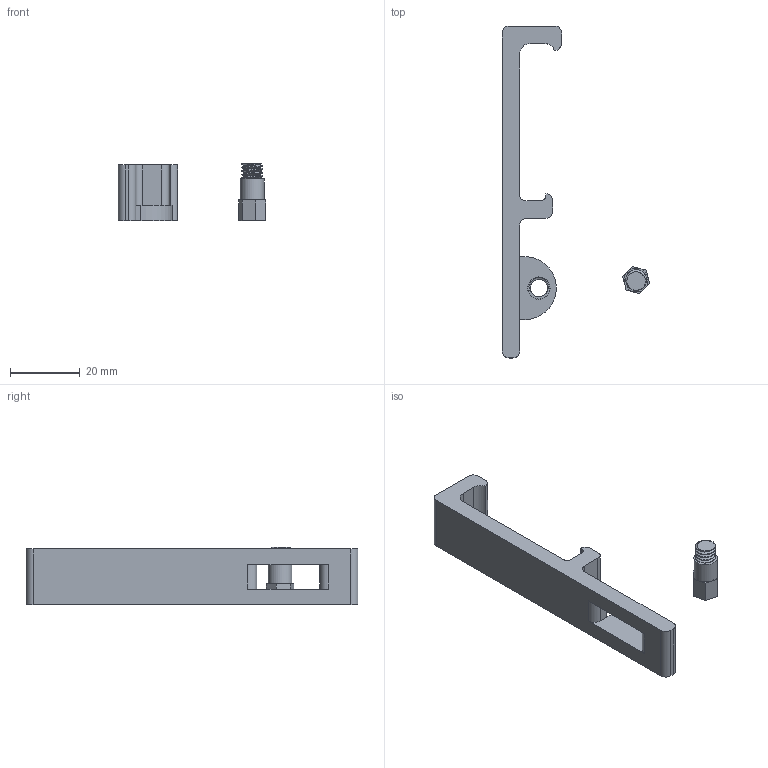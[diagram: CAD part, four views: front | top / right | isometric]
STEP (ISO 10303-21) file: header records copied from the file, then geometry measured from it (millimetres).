
FILE_DESCRIPTION(/* description */ (''),/* implementation_level */ '2;1');
FILE_NAME(/* name */ 'Soporte reloj comparador ender3v3.step',/* time_stamp */ '2026-03-02T03:02:11-03:00',/* author */ (''),/* organization */ (''),/* preprocessor_version */ 'ST-DEVELOPER v20.1',/* originating_system */ 'Autodesk Translation Framework v14.21.0.0',/* authorisation */ '');
FILE_SCHEMA (('AUTOMOTIVE_DESIGN { 1 0 10303 214 3 1 1 }'));
Length unit declared in the file: millimetre
Products named in the file (1): Soporte reloj comparador ender3v3
Bounding box: 42.23 x 95 x 16.5 mm (x, y, z)
Volume: 9954.2 mm3; surface area: 6144.2 mm2
Topology: 3 solids, 3 shells, 77 faces, 205 edges, 136 vertices
Faces by surface type: cylinder 41, plane 32, bspline 4
Full cylindrical faces by diameter (mm): 4.744 x1, 5.035 x2, 5.884 x3, 6.3 x1, 6.4 x1, 6.8 x1
Entity records: 4188 total; most frequent: CARTESIAN_POINT 2301, ORIENTED_EDGE 410, DIRECTION 343, EDGE_CURVE 205, VERTEX_POINT 136, AXIS2_PLACEMENT_3D 118, LINE 107, VECTOR 107
